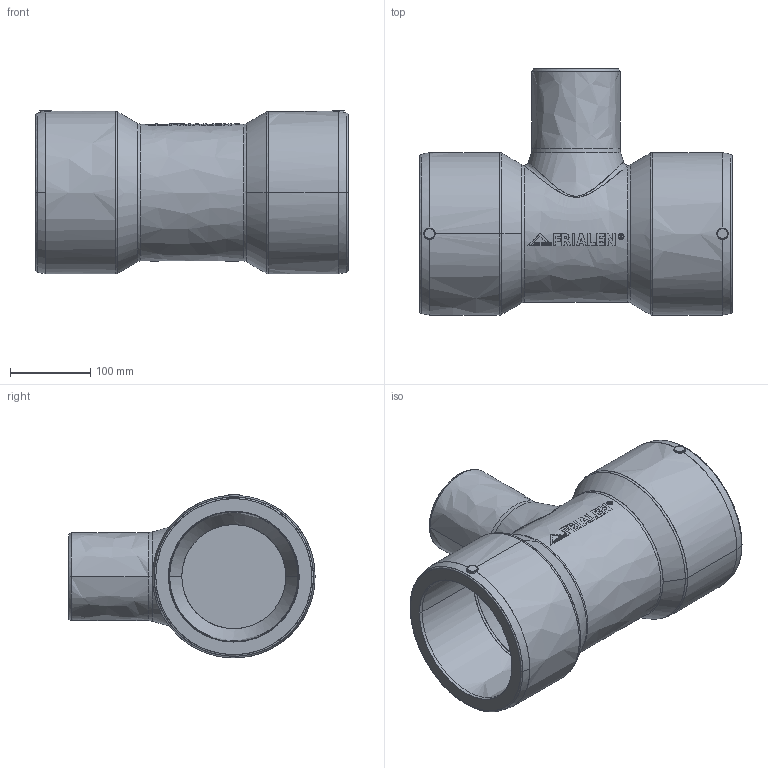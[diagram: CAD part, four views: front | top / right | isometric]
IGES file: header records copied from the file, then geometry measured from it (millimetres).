
Start section:  PTC IGES file: ta-red_d160_d110_01.igs
Global section: file name: ta-red_d160_d110_01.igs; native system: Creo Parametric by PTC Inc.; preprocessor: 2019030; author: jungmang; organization: Unknown; date: 20201222.080101; units: millimetre
Bounding box: 390 x 307.5 x 204.6 mm (x, y, z)
Surface area: 462713 mm2 (no closed solid volume)
Topology: 0 solids, 0 shells, 287 faces, 1444 edges, 1444 vertices
Faces by surface type: bspline 287
